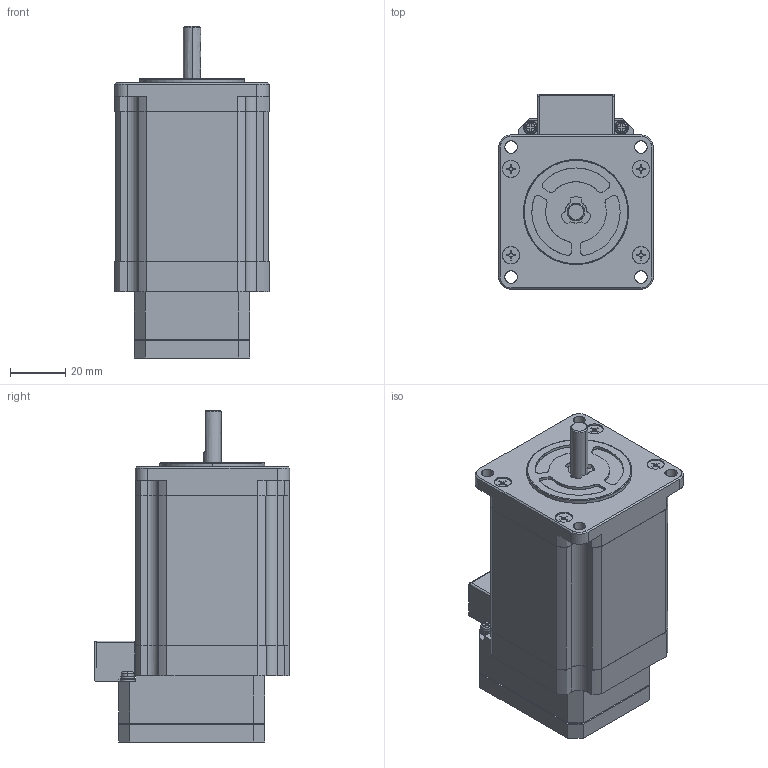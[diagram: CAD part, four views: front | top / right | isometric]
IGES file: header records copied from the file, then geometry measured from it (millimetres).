
Start section: SolidWorks IGES file using analytic representation for surfaces
Global section: file name: C:\Documents and Settings\3DCAD\デスクトップ\liujie\CM1新型ケース\HP図\CM1-＊-23L20C　.IGS,15HSolidWorks; native system: 2010; preprocessor: SolidWorks 2010; author: 3DCAD; date: 110120.185824; units: millimetre
Bounding box: 56 x 70.81 x 120.4 mm (x, y, z)
Surface area: 34409.7 mm2 (no closed solid volume)
Topology: 0 solids, 0 shells, 905 faces, 6731 edges, 6715 vertices
Faces by surface type: bspline 632, revolution 273
